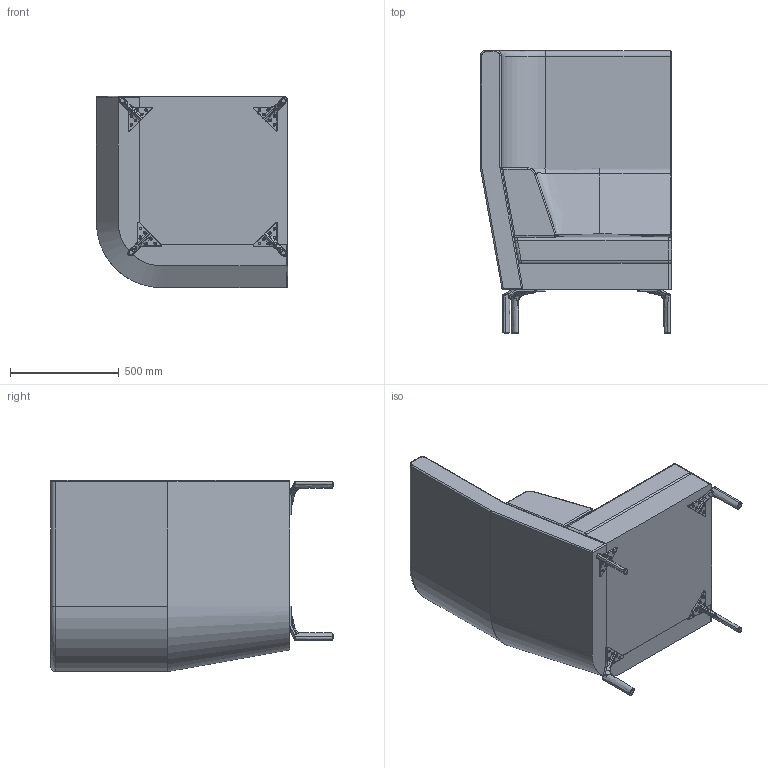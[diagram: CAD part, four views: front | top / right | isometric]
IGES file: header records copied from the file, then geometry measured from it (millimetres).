
Start section: SolidWorks IGES file using analytic representation for surfaces
Global section: file name: P:\3D CAD BLOCKS\ENTENTE\ENT - CORNER\ENT - CORNER .IGS; native system: SolidWorks 2012; preprocessor: SolidWorks 2012; author: adam; date: 140220.175410; units: millimetre
Bounding box: 880 x 1301.5 x 880 mm (x, y, z)
Surface area: 7936916.6 mm2 (no closed solid volume)
Topology: 0 solids, 0 shells, 610 faces, 7454 edges, 7446 vertices
Faces by surface type: bspline 338, revolution 272
